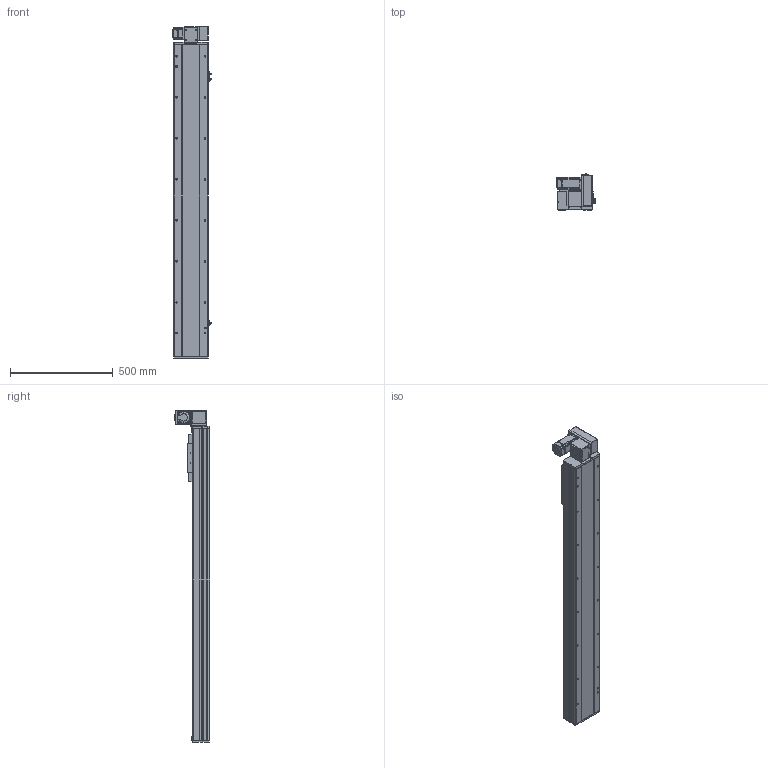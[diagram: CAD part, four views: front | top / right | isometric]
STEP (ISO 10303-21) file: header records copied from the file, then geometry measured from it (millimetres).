
FILE_DESCRIPTION (( 'STEP AP214' ), '1' );
FILE_NAME ('TPE17-L40-1200-RU-T40-C4.STEP', '2023-04-12T07:52:55', ( '' ), ( '' ), 'SwSTEP 2.0', 'SolidWorks 2020', '' );
FILE_SCHEMA (( 'AUTOMOTIVE_DESIGN' ));
Length unit declared in the file: millimetre
Products named in the file (12): 葩璃 TPE17 賑雄殤^TPE17-L40-RU-T40-C4; 葩璃 TPT14-L-009 萇儂啣^TPE17-L40-RU-T40-C4_400W; 葩璃 侂狟400W^TPE17-L40-RU-T40-C4; TPE17-L40-1200-RU-T40-C4; hexagon socket head cap screws gb_GB_FASTENER_SCREWS_HSHCS M3X6-N; 葩璃 pm-t65-672^TPE17-L40-RU-T40-C4; 葩璃 TPE17-L-002 耜裔ZTMZ-135-04^TPE17-L40-RU-T40-C4; 葩璃 TPE17-L-001 菁釱MZ-170-01^TPE17-L40-RU-T40-C4; 葩璃 TPE17-L-007 々湍釱MZ-169x88^TPE17-L40-RU-T40-C4_TPE17; hex nuts, style 1-grades ab gb_GB_FASTENER_NUT_SNAB1 M3-N; 葩璃 詩湍110^TPE17-L40-RU-T40-C4; hexagon head bolts-full thread gb_GB_FASTENER_BOLT_STBAB A M5X16-N
Assembly tree (24 placements, depth 2):
  TPE17-L40-1200-RU-T40-C4
    葩璃 TPE17-L-001 菁釱MZ-170-01^TPE17-L40-RU-T40-C4
    葩璃 TPE17-L-002 耜裔ZTMZ-135-04^TPE17-L40-RU-T40-C4  x2
    葩璃 詩湍110^TPE17-L40-RU-T40-C4
    葩璃 TPE17-L-007 々湍釱MZ-169x88^TPE17-L40-RU-T40-C4_TPE17
    葩璃 TPT14-L-009 萇儂啣^TPE17-L40-RU-T40-C4_400W
    葩璃 TPE17 賑雄殤^TPE17-L40-RU-T40-C4
    葩璃 pm-t65-672^TPE17-L40-RU-T40-C4  x3
    葩璃 侂狟400W^TPE17-L40-RU-T40-C4
    hexagon socket head cap screws gb_GB_FASTENER_SCREWS_HSHCS M3X6-N  x6
    hex nuts, style 1-grades ab gb_GB_FASTENER_NUT_SNAB1 M3-N  x6
    hexagon head bolts-full thread gb_GB_FASTENER_BOLT_STBAB A M5X16-N
Bounding box: 186.2 x 173.15 x 1619 mm (x, y, z)
Volume: 14485963.3 mm3; surface area: 1941547.7 mm2
Topology: 35 solids, 35 shells, 1706 faces, 4347 edges, 2738 vertices
Faces by surface type: plane 981, cylinder 469, cone 210, bspline 34, torus 12
Entity records: 40103 total; most frequent: CARTESIAN_POINT 7854, DIRECTION 6432, ORIENTED_EDGE 6214, EDGE_CURVE 3107, AXIS2_PLACEMENT_3D 2189, VECTOR 2054, LINE 2054, VERTEX_POINT 2001
